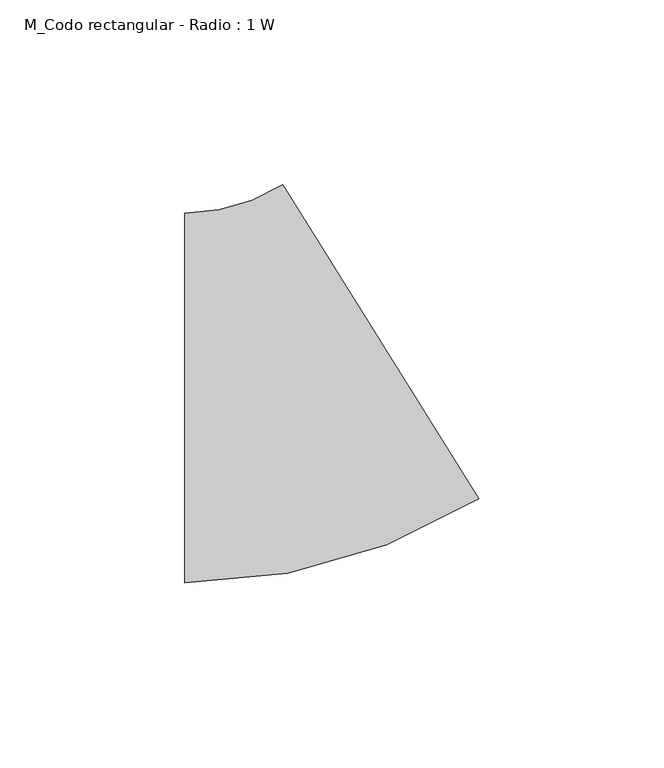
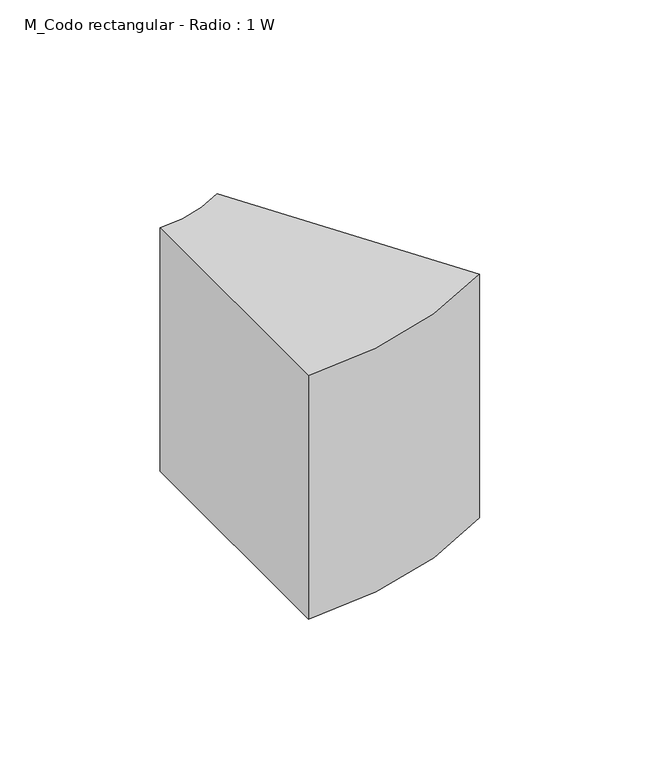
"""IFC4 building model written with IfcOpenShell, lengths in millimetres: duct fitting geometry, M_Codo rectangular - Radio : 1 W."""

from ifc_helpers import new_model, si_unit, point, frame, frame_2d, origin, place, context, project, spatial, polyline, circle_curve, trimmed, segment, composite_curve, outline, extrude, source, transform, mapped, element, save


def m_codo_rectangular_radio_1_w_7206d7a8(model_context):
    return source(origin(), model_context, "Body", "SweptSolid", [
        extrude(outline(composite_curve([segment(trimmed(circle_curve(frame_2d((-28.6745386, 100.0)), 150.0), [point((50.8133511, -27.2072144))], [point((-28.6745386, -50.0))], False, "CARTESIAN"), True, "CONTINUOUS"), segment(polyline([(-28.6745386, -50.0), (-28.6745386, 50.0)]), True, "CONTINUOUS"), segment(trimmed(circle_curve(frame_2d((-28.6745386, 100.0)), 50.0), [point((-28.6745386, 50.0))], [point((-2.1785754, 57.5975952))], True, "CARTESIAN"), True, "CONTINUOUS"), segment(polyline([(-2.1785754, 57.5975952), (50.8133511, -27.2072144)]), True, "CONTINUOUS")], self_intersect=False)), frame((0.0, 0.0, -50.0), z_axis=(0.0, 0.0, 1.0), x_axis=(1.0, 0.0, 0.0)), (0.0, 0.0, 1.0), 100.0),
    ])


if __name__ == "__main__":
    model = new_model("IFC4")
    model_context = context("Model", 3, world=origin())
    ifc_project = project(units=[si_unit("LENGTHUNIT", "METRE", prefix="MILLI")], contexts=[model_context])
    site = spatial("IfcSite", under=ifc_project)
    building = spatial("IfcBuilding", under=site)
    placement = place(None, origin())
    m_codo_rectangular_radio_1_w_shape = m_codo_rectangular_radio_1_w_7206d7a8(model_context)
    element("IfcDuctFitting", 1, ObjectType="M_Codo rectangular - Radio : 1 W", at=placement, inside=building, context=model_context, shape_type="MappedRepresentation", body=[
        mapped(m_codo_rectangular_radio_1_w_shape, transform((0.0, 0.0, 0.0), x_axis=(1.0, 0.0, 0.0), y_axis=(0.0, 1.0, 0.0), z_axis=(0.0, 0.0, 1.0))),
    ])
    save(model, "model.ifc")
